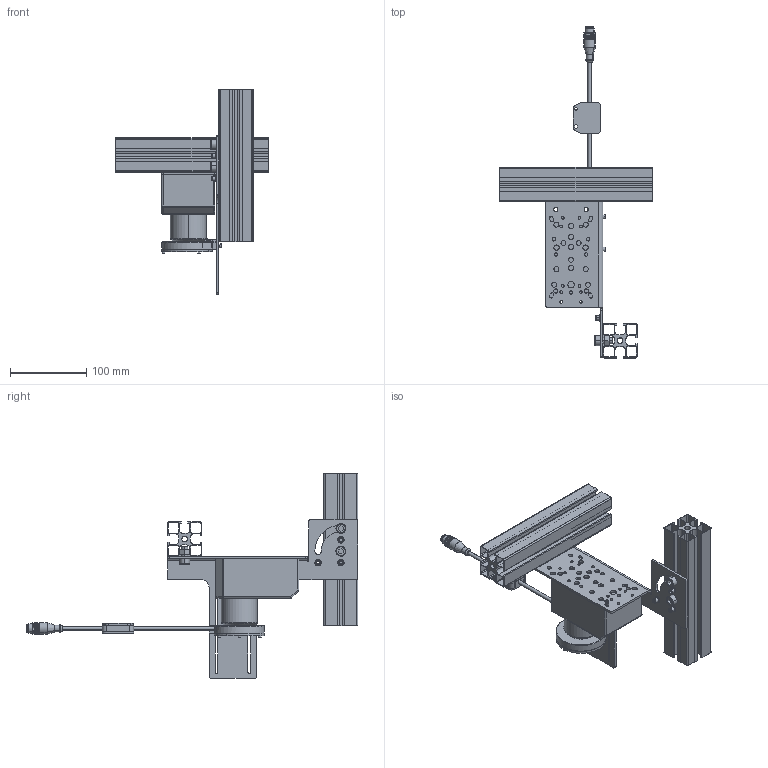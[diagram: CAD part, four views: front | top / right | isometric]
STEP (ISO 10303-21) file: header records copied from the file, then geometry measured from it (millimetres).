
FILE_DESCRIPTION (( 'STEP AP214' ), '1' );
FILE_NAME ('TPLMOUNT-TRING-H1.STEP', '2016-05-24T07:17:35', ( 'Ludovic' ), ( '' ), 'SwSTEP 2.0', 'SolidWorks 2014', '' );
FILE_SCHEMA (( 'AUTOMOTIVE_DESIGN' ));
Length unit declared in the file: millimetre
Products named in the file (9): 016521_D‚faut<Brut d''usinage>; TPLMOUNT-TRING-H1; ECROU_HU_DIN934_ECROU_HU_M08_A2; Cam-09; 016522; TRING; Vis CHC_Vis CHC M 3-12; Vis CHC_Vis CHC M 8-16; 45x45 rainuré
Assembly tree (16 placements, depth 2):
  TPLMOUNT-TRING-H1
    016521_D‚faut<Brut d''usinage>
    45x45 rainuré  x2
    Vis CHC_Vis CHC M 8-16  x4
    Vis CHC_Vis CHC M 3-12  x2
    TRING
    016522
    Cam-09
    ECROU_HU_DIN934_ECROU_HU_M08_A2  x4
Bounding box: 200 x 436.75 x 268.86 mm (x, y, z)
Volume: 757024.2 mm3; surface area: 365757.2 mm2
Topology: 18 solids, 39 shells, 990 faces, 2653 edges, 1728 vertices
Faces by surface type: cylinder 401, plane 396, cone 129, torus 44, sphere 20
Entity records: 29035 total; most frequent: CARTESIAN_POINT 5013, DIRECTION 4448, ORIENTED_EDGE 3875, EDGE_CURVE 2075, AXIS2_PLACEMENT_3D 1707, VERTEX_POINT 1370, VECTOR 1034, LINE 1034
